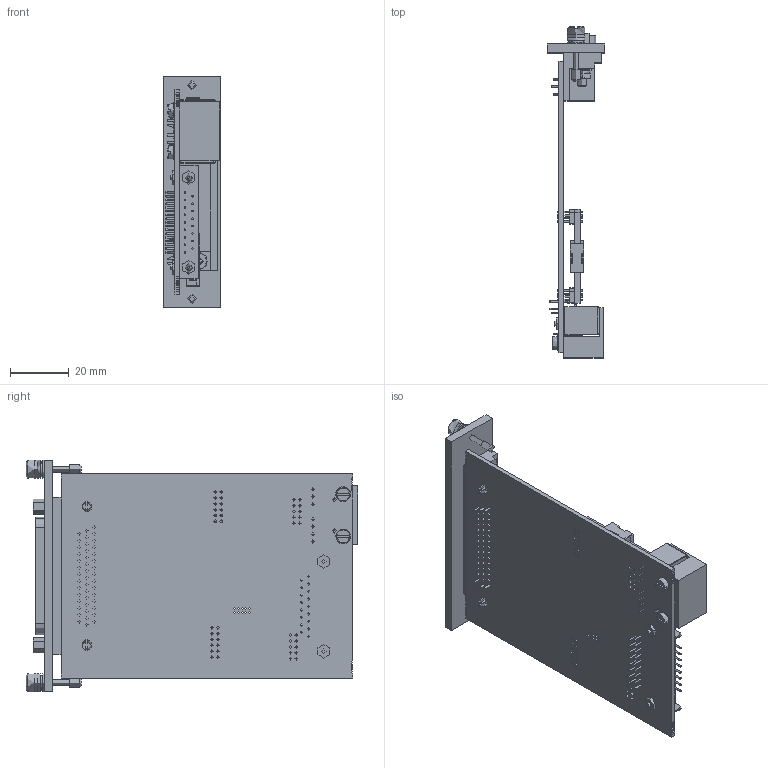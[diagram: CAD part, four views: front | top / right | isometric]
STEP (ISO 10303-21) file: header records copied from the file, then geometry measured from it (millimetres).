
FILE_DESCRIPTION(('STEP AP203'), '1');
FILE_NAME('帎迗.468165.006 沓劌錪 眝3_倇_301', '', ('UNSPECIFIED'), ('UNSPECIFIED'), 'C3D Converter', 'C3D Toolkit', '');
FILE_SCHEMA(('CONFIG_CONTROL_DESIGN'));
Length unit declared in the file: millimetre
Products named in the file (1): КМНТ.468165.006
Bounding box: 19.6 x 112.69 x 78.5 mm (x, y, z)
Topology: 5 solids, 8 shells, 2550 faces, 6501 edges, 4129 vertices
Faces by surface type: plane 1723, cylinder 732, cone 40, sphere 36, torus 19
Full cylindrical faces by diameter (mm): 0.6 x43, 0.7 x22, 0.8 x17, 1 x149, 1.1 x7, 1.4 x2, 1.6 x2, 2 x2, 2.362 x2, 2.459 x2, 2.49 x2, 3 x2, 3.175 x4, 3.2 x4, 3.4 x2, 4.5 x2, 5 x2, 6 x8
Entity records: 97750 total; most frequent: CARTESIAN_POINT 15595, DIRECTION 12689, ORIENTED_EDGE 12252, EDGE_CURVE 6126, LINE 4423, VECTOR 4423, AXIS2_PLACEMENT_3D 4133, VERTEX_POINT 4130
